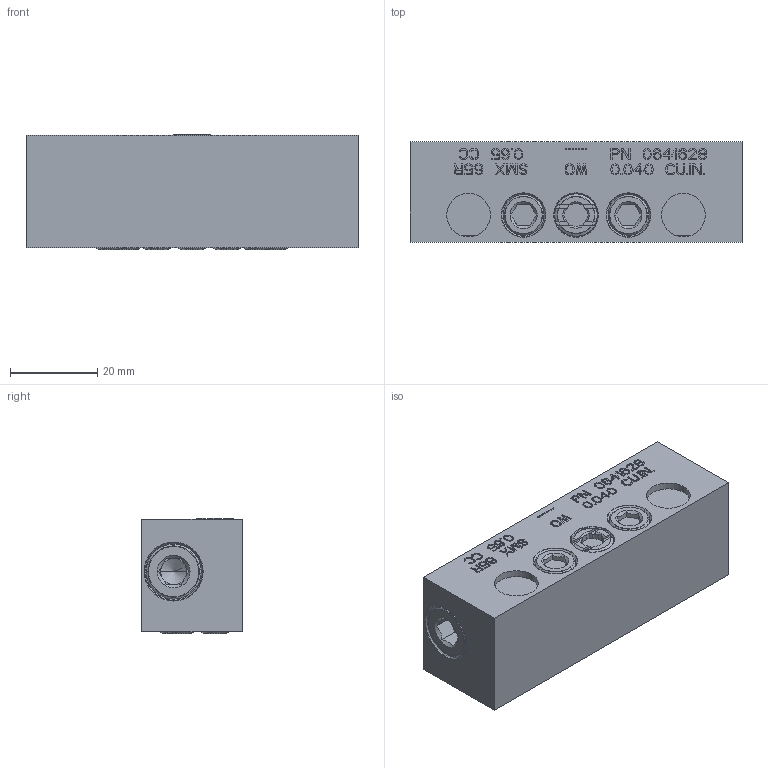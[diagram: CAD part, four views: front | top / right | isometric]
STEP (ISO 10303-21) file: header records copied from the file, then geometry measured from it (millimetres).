
FILE_DESCRIPTION((''),'2;1');
FILE_NAME('0641628_SMX_65R','2023-07-21T12:24:28',('pietro.masciave'),(''),'CREO PARAMETRIC BY PTC INC, 2022281','CREO PARAMETRIC BY PTC INC, 2022281','');
FILE_SCHEMA(('CONFIG_CONTROL_DESIGN'));
Length unit declared in the file: millimetre
Products named in the file (1): 0641628_SMX_65R
Bounding box: 76 x 23 x 26.33 mm (x, y, z)
Volume: 43968.3 mm3; surface area: 12621.3 mm2
Topology: 1 solids, 14 shells, 1417 faces, 3926 edges, 2609 vertices
Faces by surface type: plane 1243, cylinder 108, cone 44, torus 22
Entity records: 45592 total; most frequent: CARTESIAN_POINT 9080, ORIENTED_EDGE 7804, DIRECTION 7049, EDGE_CURVE 3922, VECTOR 3493, LINE 3493, VERTEX_POINT 2609, AXIS2_PLACEMENT_3D 1778
